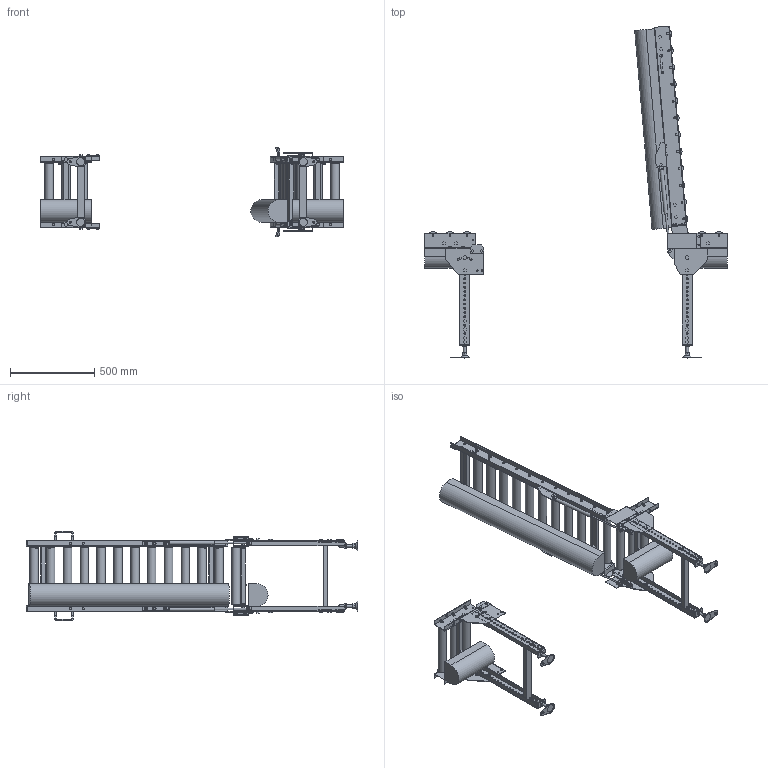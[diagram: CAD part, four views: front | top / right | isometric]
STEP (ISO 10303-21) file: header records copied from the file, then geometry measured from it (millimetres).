
FILE_DESCRIPTION( (''), '2;1');
FILE_NAME ('WEB-MCD50-355-100-120-R-HU.stp','2025-07-01T16:00:01',(''),(''),'spGate 20.6.2 (****-****-****-****)','','');
FILE_SCHEMA (('AUTOMOTIVE_DESIGN'));
Length unit declared in the file: millimetre
Products named in the file (24): WEB-MCD50-355-100-120-R-HU; TEMP_X_T-prt0; TEMP_X_T-prt1; TEMP_X_T-prt2; TEMP_X_T-prt3; TEMP_X_T-prt4; TEMP_X_T-prt5; TEMP_X_T-prt6; TEMP_X_T-prt7; TEMP_X_T-prt8; TEMP_X_T-prt9; TEMP_X_T-prt10; TEMP_X_T-prt11; TEMP_X_T-prt12; TEMP_X_T-prt13; TEMP_X_T-prt14; TEMP_X_T-prt15; TEMP_X_T-prt16; TEMP_X_T-prt17; TEMP_X_T-prt18; TEMP_X_T-prt19; TEMP_X_T-prt20; TEMP_X_T-prt21; TEMP_X_T-prt22
Assembly tree (23 placements, depth 2):
  WEB-MCD50-355-100-120-R-HU
    TEMP_X_T-prt0
    TEMP_X_T-prt1
    TEMP_X_T-prt2
    TEMP_X_T-prt3
    TEMP_X_T-prt4
    TEMP_X_T-prt5
    TEMP_X_T-prt6
    TEMP_X_T-prt7
    TEMP_X_T-prt8
    TEMP_X_T-prt9
    TEMP_X_T-prt10
    TEMP_X_T-prt11
    TEMP_X_T-prt12
    TEMP_X_T-prt13
    TEMP_X_T-prt14
    TEMP_X_T-prt15
    TEMP_X_T-prt16
    TEMP_X_T-prt17
    TEMP_X_T-prt18
    TEMP_X_T-prt19
    TEMP_X_T-prt20
    TEMP_X_T-prt21
    TEMP_X_T-prt22
Bounding box: 1791.65 x 1964.71 x 531.4 mm (x, y, z)
Volume: 42882829.4 mm3; surface area: 4388141.6 mm2
Topology: 23 solids, 49 shells, 2584 faces, 6541 edges, 4308 vertices
Faces by surface type: plane 2123, cylinder 443, bspline 18
Full cylindrical faces by diameter (mm): 8 x8, 8.5 x8, 9 x20, 10 x58, 10.5 x96, 11 x8, 12 x38, 13 x12, 14 x4, 15 x6, 15.4 x2, 15.7 x2, 16 x10, 17 x4, 18 x6, 18.4 x28, 18.5 x8, 21 x12, 22 x2, 50.8 x18
Entity records: 132529 total; most frequent: CARTESIAN_POINT 14943, DIRECTION 13226, ORIENTED_EDGE 13082, COLOUR_RGB 9148, PRESENTATION_STYLE_ASSIGNMENT 9148, STYLED_ITEM 9148, EDGE_CURVE 6541, DRAUGHTING_PRE_DEFINED_CURVE_FONT 6541
